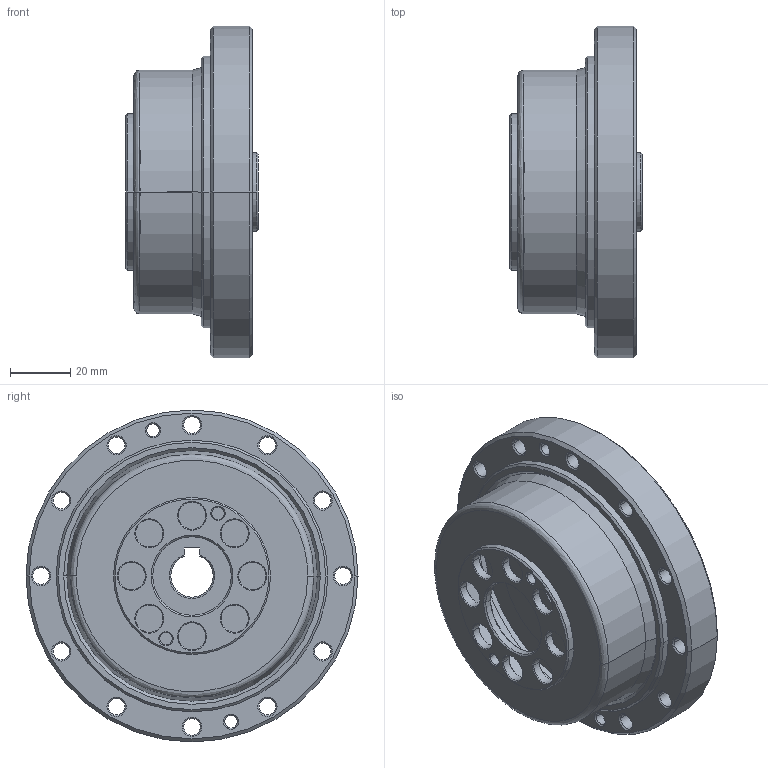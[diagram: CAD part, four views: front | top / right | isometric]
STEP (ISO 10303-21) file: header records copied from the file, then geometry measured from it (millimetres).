
FILE_DESCRIPTION(('STEP AP214'),'1');
FILE_NAME('cctmp_962B4B3A-005C-4D2C-B3B1-26D10FF62F26_2025_03_06_11_15_51_0048_42348..stp','2025-03-06T10:15:51',('HIWIN GmbH'),('CADClick - www.CADClick.com'),'Spatial InterOp 3D',' ','unknown authorization');
FILE_SCHEMA(('AUTOMOTIVE_DESIGN'));
Length unit declared in the file: millimetre
Products named in the file (2): DSC-32-XX-CO_FILE; 2025_03_06_11_15_51_0048
Assembly tree (1 placements, depth 2):
  DSC-32-XX-CO_FILE
    2025_03_06_11_15_51_0048
Bounding box: 44 x 110 x 110 mm (x, y, z)
Volume: 144316.6 mm3; surface area: 50145.2 mm2
Topology: 1 solids, 1 shells, 251 faces, 591 edges, 356 vertices
Faces by surface type: cone 128, cylinder 89, plane 28, bspline 6
Entity records: 9686 total; most frequent: CARTESIAN_POINT 1553, DIRECTION 1407, ORIENTED_EDGE 1182, EDGE_CURVE 591, AXIS2_PLACEMENT_3D 583, VERTEX_POINT 356, CIRCLE 336, EDGE_LOOP 315
